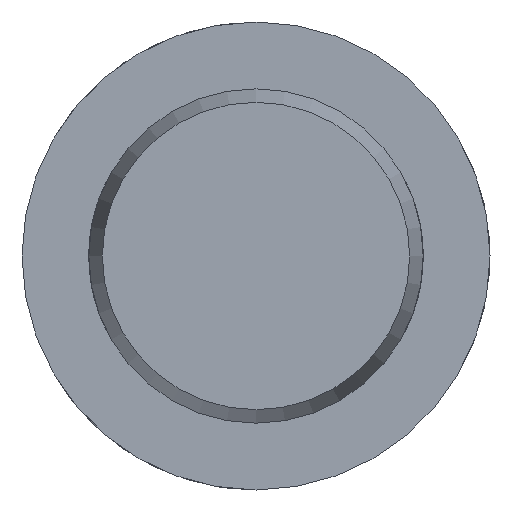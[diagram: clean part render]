
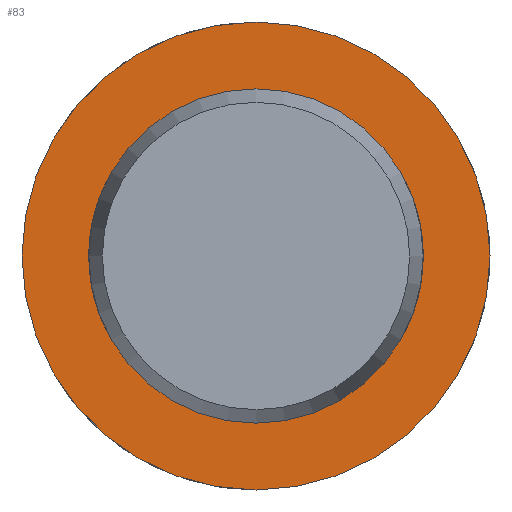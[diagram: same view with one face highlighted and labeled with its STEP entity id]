
A CAD part, left-side view. The second image highlights one B-rep face of the part: STEP entity #83.
In plain terms, the highlighted planar face has unit normal (-1, 0, 0).
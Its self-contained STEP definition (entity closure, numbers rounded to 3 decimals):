
#83 = ADVANCED_FACE( '', ( #128, #129 ), #130, .F. );
#128 = FACE_OUTER_BOUND( '', #204, .T. );
#129 = FACE_BOUND( '', #205, .T. );
#130 = PLANE( '', #206 );
#204 = EDGE_LOOP( '', ( #318 ) );
#205 = EDGE_LOOP( '', ( #319 ) );
#206 = AXIS2_PLACEMENT_3D( '', #320, #321, #322 );
#318 = ORIENTED_EDGE( '', *, *, #481, .F. );
#319 = ORIENTED_EDGE( '', *, *, #471, .T. );
#320 = CARTESIAN_POINT( '', ( 59.6, 5., 0. ) );
#321 = DIRECTION( '', ( 1., 0., 0. ) );
#322 = DIRECTION( '', ( 0., 0., -1. ) );
#471 = EDGE_CURVE( '', #541, #541, #542, .T. );
#481 = EDGE_CURVE( '', #559, #559, #560, .T. );
#541 = VERTEX_POINT( '', #726 );
#542 = CIRCLE( '', #727, 5. );
#559 = VERTEX_POINT( '', #881 );
#560 = CIRCLE( '', #882, 7. );
#726 = CARTESIAN_POINT( '', ( 59.6, 0., -5. ) );
#727 = AXIS2_PLACEMENT_3D( '', #943, #944, #945 );
#881 = CARTESIAN_POINT( '', ( 59.6, 0., -7. ) );
#882 = AXIS2_PLACEMENT_3D( '', #964, #965, #966 );
#943 = CARTESIAN_POINT( '', ( 59.6, 0., 0. ) );
#944 = DIRECTION( '', ( 1., 0., 0. ) );
#945 = DIRECTION( '', ( 0., 0., -1. ) );
#964 = CARTESIAN_POINT( '', ( 59.6, 0., 0. ) );
#965 = DIRECTION( '', ( 1., 0., 0. ) );
#966 = DIRECTION( '', ( 0., 0., -1. ) );
